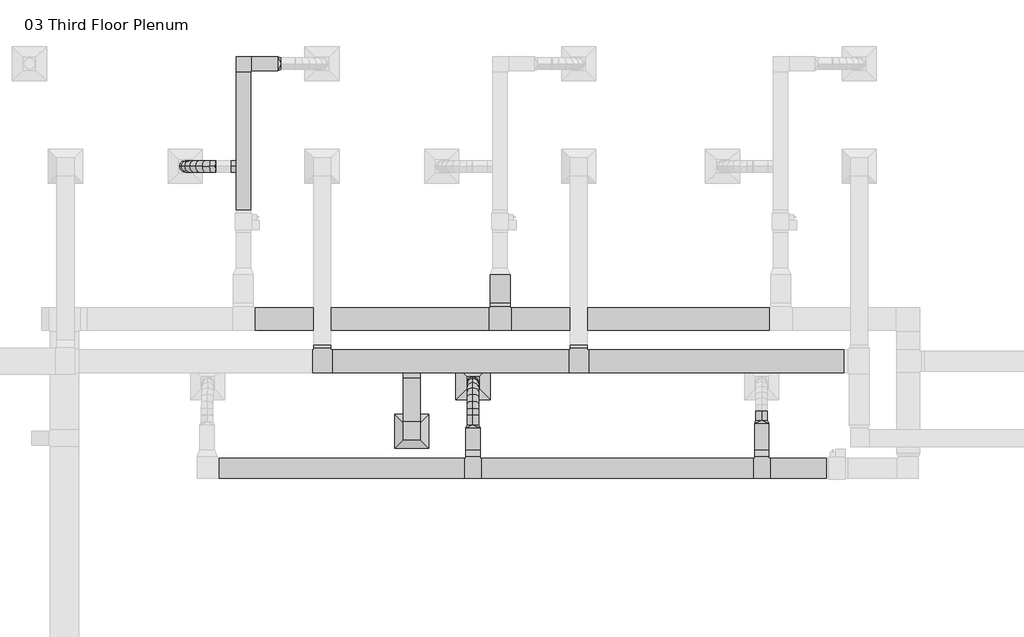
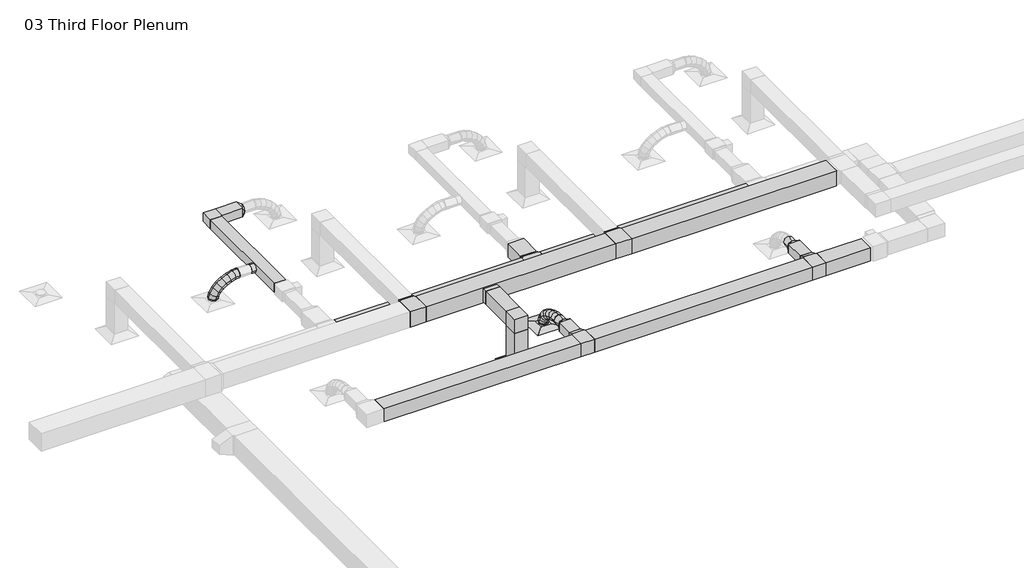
# One storey, part 6 of 9: 18 duct segments, 17 duct fittings, 2 air terminals.
"""IFC4 building model written with IfcOpenShell, lengths in millimetres."""

from ifc_helpers import new_model, si_unit, point, frame, frame_2d, origin, place, context, project, spatial, polyline, circle_curve, ellipse_curve, trimmed, segment, composite_curve, outline, extrude, transform, mapped, element, save
from ifc_brep_helpers import plane_surface, cylinder_surface, advanced_brep
from components import return_diffuser_d30_returndiffuser_24x24_12x12_connection_ff543d60, supply_diffuser_rectangular_face_round_neck_d30_6390248a, rectangular_elbow_mitered_standard_f09b78ec, rectangular_elbow_mitered_standard_4ff1c4e8, rectangular_takeoff_standard_e60ef6aa, rectangular_tee_standard_6c605370, rectangular_tee_standard_0ce2a782, rectangular_tee_standard_b910b0bc, rectangular_transition_angle_45_degree_68762448, rectangular_transition_angle_45_degree_97535d2c, rectangular_transition_angle_45_degree_0def93a9, rectangular_transition_angle_45_degree_622b8b9e, rectangular_to_round_transition_angle_45_degree_e9430680, round_takeoff_standard_1127d77f

model = new_model("IFC4")

# Units and contexts
model_context = context("Model", 3, world=origin())
ifc_project = project(units=[si_unit("LENGTHUNIT", "METRE", prefix="MILLI")], contexts=[model_context])

# Site, building, storey
site = spatial("IfcSite", under=ifc_project)
building = spatial("IfcBuilding", under=site)
storey = spatial("IfcBuildingStorey", under=building, Name="03 Third Floor Plenum", Elevation=7620.0)

# Air terminals
placement = place(None, origin())
return_diffuser_d30_returndiffuser_24x24_12x12_connection_shape = return_diffuser_d30_returndiffuser_24x24_12x12_connection_ff543d60(model_context)
element("IfcAirTerminal", 1, ObjectType="Return Diffuser : D30_ReturnDiffuser_24x24 12x12 Connection", at=placement, inside=storey, context=model_context, shape_type="MappedRepresentation", body=[
    mapped(return_diffuser_d30_returndiffuser_24x24_12x12_connection_shape, transform((2278.8423666, 5317.9101985, 7620.0), x_axis=(1.0, 0.0, 0.0), y_axis=(0.0, 1.0, 0.0), z_axis=(0.0, 0.0, 1.0))),
])
supply_diffuser_rectangular_face_round_neck_d30_shape = supply_diffuser_rectangular_face_round_neck_d30_6390248a(model_context)
element("IfcAirTerminal", 2, ObjectType="Supply Diffuser - Rectangular Face Round Neck : D30_SupplyDiffuser_24x24 8 Neck", at=placement, inside=storey, context=model_context, shape_type="MappedRepresentation", body=[
    mapped(supply_diffuser_rectangular_face_round_neck_d30_shape, transform((3368.651634, 6185.4921675, 7620.0), x_axis=(1.0, 0.0, 0.0), y_axis=(0.0, 1.0, 0.0), z_axis=(0.0, 0.0, 1.0))),
])

# Duct fittings
rectangular_elbow_mitered_standard_shape = rectangular_elbow_mitered_standard_f09b78ec(model_context)
element("IfcDuctFitting", 3, ObjectType="Rectangular Elbow - Mitered : Standard", at=placement, inside=storey, context=model_context, shape_type="MappedRepresentation", body=[
    mapped(rectangular_elbow_mitered_standard_shape, transform((-720.748366, 11865.5671675, 8077.2), x_axis=(-1.0, 0.0, 0.0), y_axis=(0.0, -1.0, 0.0), z_axis=(0.0, 0.0, 1.0))),
])
rectangular_elbow_mitered_standard_2_shape = rectangular_elbow_mitered_standard_4ff1c4e8(model_context)
element("IfcDuctFitting", 4, ObjectType="Rectangular Elbow - Mitered : Standard", at=placement, inside=storey, context=model_context, shape_type="MappedRepresentation", body=[
    mapped(rectangular_elbow_mitered_standard_2_shape, transform((2278.8423666, 5317.9101985, 8610.6), x_axis=(0.0, 0.0, 1.0), y_axis=(0.0, 1.0, 0.0), z_axis=(-1.0, 0.0, 0.0))),
])
rectangular_takeoff_standard_shape = rectangular_takeoff_standard_e60ef6aa(model_context)
element("IfcDuctFitting", 5, ObjectType="Rectangular Takeoff : Standard", at=placement, inside=storey, context=model_context, shape_type="MappedRepresentation", body=[
    mapped(rectangular_takeoff_standard_shape, transform((2278.8423666, 6359.3101985, 8610.6), x_axis=(0.0, -1.0, 0.0), y_axis=(-1.0, 0.0, 0.0), z_axis=(0.0, 0.0, -1.0))),
])
rectangular_tee_standard_shape = rectangular_tee_standard_6c605370(model_context)
element("IfcDuctFitting", 6, ObjectType="Rectangular Tee : Standard", at=placement, inside=storey, context=model_context, shape_type="MappedRepresentation", body=[
    mapped(rectangular_tee_standard_shape, transform((3851.251634, 7316.8809317, 8077.2), x_axis=(-1.0, 0.0, 0.0), y_axis=(0.0, -1.0, 0.0), z_axis=(0.0, 0.0, 1.0))),
])
rectangular_tee_standard_2_shape = rectangular_tee_standard_0ce2a782(model_context)
element("IfcDuctFitting", 7, ObjectType="Rectangular Tee : Standard", at=placement, inside=storey, context=model_context, shape_type="MappedRepresentation", body=[
    mapped(rectangular_tee_standard_2_shape, transform((8513.07093, 4659.6636656, 8077.2), x_axis=(-1.0, 0.0, 0.0), y_axis=(0.0, -1.0, 0.0), z_axis=(0.0, 0.0, 1.0))),
])
element("IfcDuctFitting", 8, ObjectType="Rectangular Tee : Standard", at=placement, inside=storey, context=model_context, shape_type="MappedRepresentation", body=[
    mapped(rectangular_tee_standard_2_shape, transform((3368.651634, 4659.6636656, 8077.2), x_axis=(-1.0, 0.0, 0.0), y_axis=(0.0, -1.0, 0.0), z_axis=(0.0, 0.0, 1.0))),
])
rectangular_tee_standard_3_shape = rectangular_tee_standard_b910b0bc(model_context)
element("IfcDuctFitting", 9, ObjectType="Rectangular Tee : Standard", at=placement, inside=storey, context=model_context, shape_type="MappedRepresentation", body=[
    mapped(rectangular_tee_standard_3_shape, transform((5253.2457383, 6562.5101985, 8610.6), x_axis=(-1.0, 0.0, 0.0), y_axis=(0.0, -1.0, 0.0), z_axis=(0.0, 0.0, 1.0))),
])
element("IfcDuctFitting", 10, ObjectType="Rectangular Tee : Standard", at=placement, inside=storey, context=model_context, shape_type="MappedRepresentation", body=[
    mapped(rectangular_tee_standard_3_shape, transform((681.292805, 6562.5101985, 8610.6), x_axis=(-1.0, 0.0, 0.0), y_axis=(0.0, -1.0, 0.0), z_axis=(0.0, 0.0, 1.0))),
])
rectangular_transition_angle_45_degree_shape = rectangular_transition_angle_45_degree_68762448(model_context)
element("IfcDuctFitting", 11, ObjectType="Rectangular Transition - Angle : 45 Degree", at=placement, inside=storey, context=model_context, shape_type="MappedRepresentation", body=[
    mapped(rectangular_transition_angle_45_degree_shape, transform((681.2918451, 6852.431223, 8610.6), x_axis=(1.5654790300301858e-05, -0.9999999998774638, 0.0), y_axis=(0.9999999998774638, 1.5654790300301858e-05, 0.0), z_axis=(0.0, 0.0, 1.0))),
])
rectangular_transition_angle_45_degree_2_shape = rectangular_transition_angle_45_degree_97535d2c(model_context)
element("IfcDuctFitting", 12, ObjectType="Rectangular Transition - Angle : 45 Degree", at=placement, inside=storey, context=model_context, shape_type="MappedRepresentation", body=[
    mapped(rectangular_transition_angle_45_degree_2_shape, transform((3851.251634, 7606.8019562, 8077.2), x_axis=(0.0, -1.0, 0.0), y_axis=(1.0, 0.0, 0.0), z_axis=(0.0, 0.0, 1.0))),
])
rectangular_transition_angle_45_degree_3_shape = rectangular_transition_angle_45_degree_0def93a9(model_context)
element("IfcDuctFitting", 13, ObjectType="Rectangular Transition - Angle : 45 Degree", at=placement, inside=storey, context=model_context, shape_type="MappedRepresentation", body=[
    mapped(rectangular_transition_angle_45_degree_3_shape, transform((8513.07093, 4862.8636656, 8077.2), x_axis=(0.0, 1.0, 0.0), y_axis=(-1.0, 0.0, 0.0), z_axis=(0.0, 0.0, 1.0))),
])
element("IfcDuctFitting", 14, ObjectType="Rectangular Transition - Angle : 45 Degree", at=placement, inside=storey, context=model_context, shape_type="MappedRepresentation", body=[
    mapped(rectangular_transition_angle_45_degree_3_shape, transform((3368.651634, 4862.8636656, 8077.2), x_axis=(0.0, 1.0, 0.0), y_axis=(-1.0, 0.0, 0.0), z_axis=(0.0, 0.0, 1.0))),
])
rectangular_transition_angle_45_degree_4_shape = rectangular_transition_angle_45_degree_622b8b9e(model_context)
element("IfcDuctFitting", 15, ObjectType="Rectangular Transition - Angle : 45 Degree", at=placement, inside=storey, context=model_context, shape_type="MappedRepresentation", body=[
    mapped(rectangular_transition_angle_45_degree_4_shape, transform((5253.2457383, 6791.1101985, 8610.6), x_axis=(0.0, 1.0, 0.0), y_axis=(-1.0, 0.0, 0.0), z_axis=(0.0, 0.0, 1.0))),
])
rectangular_to_round_transition_angle_45_degree_shape = rectangular_to_round_transition_angle_45_degree_e9430680(model_context)
element("IfcDuctFitting", 16, ObjectType="Rectangular to Round Transition - Angle : 45 Degree", at=placement, inside=storey, context=model_context, shape_type="MappedRepresentation", body=[
    mapped(rectangular_to_round_transition_angle_45_degree_shape, transform((-111.148366, 11865.5671675, 8077.2), x_axis=(1.0, 0.0, 0.0), y_axis=(0.0, 1.0, 0.0), z_axis=(0.0, 0.0, 1.0))),
])
element("IfcDuctFitting", 17, ObjectType="Rectangular to Round Transition - Angle : 45 Degree", at=placement, inside=storey, context=model_context, shape_type="MappedRepresentation", body=[
    mapped(rectangular_to_round_transition_angle_45_degree_shape, transform((8513.07093, 5447.0636656, 8077.2), x_axis=(0.0, 1.0, 0.0), y_axis=(-1.0, 0.0, 0.0), z_axis=(0.0, 0.0, 1.0))),
])
element("IfcDuctFitting", 18, ObjectType="Rectangular to Round Transition - Angle : 45 Degree", at=placement, inside=storey, context=model_context, shape_type="MappedRepresentation", body=[
    mapped(rectangular_to_round_transition_angle_45_degree_shape, transform((3368.651634, 5370.8636656, 8077.2), x_axis=(0.0, 1.0, 0.0), y_axis=(-1.0, 0.0, 0.0), z_axis=(0.0, 0.0, 1.0))),
])
round_takeoff_standard_shape = round_takeoff_standard_1127d77f(model_context)
element("IfcDuctFitting", 19, ObjectType="Round Takeoff : Standard", at=placement, inside=storey, context=model_context, shape_type="MappedRepresentation", body=[
    mapped(round_takeoff_standard_shape, transform((-847.748366, 10036.7671675, 8077.2), x_axis=(-1.0, 0.0, 0.0), y_axis=(0.0, 1.0, 0.0), z_axis=(0.0, 0.0, -1.0))),
])

# Duct segments
element("IfcDuctSegment", 20, ObjectType="Flex - Round", at=placement, inside=storey, context=model_context, shape_type="AdvancedBrep", body=[
    advanced_brep(
    [(-1203.348366, 9935.1671675, 8077.2), (-1203.348366, 10036.7671675, 7975.6), (-1203.348366, 10138.3671675, 8077.2), (-1203.348366, 10036.7671675, 8178.8), (-1213.550614, 9935.1671675, 8077.2), (-1207.8750929, 10036.7671675, 7975.6), (-1213.550614, 10138.3671675, 8077.2), (-1219.2261351, 10036.7671675, 8178.8), (-1757.1542617, 9935.1671675, 7673.975), (-1858.7542617, 10036.7671675, 7673.975), (-1757.1542617, 10138.3671675, 7673.975), (-1655.5542617, 10036.7671675, 7673.975), (-1305.9257887, 9935.1671675, 8066.847276), (-1286.593384, 10036.7671675, 7966.7778382), (-1305.9257887, 10138.3671675, 8066.847276), (-1325.2581935, 10036.7671675, 8166.9167138), (-1413.0020777, 9935.1671675, 8037.2048655), (-1378.4297131, 10036.7671675, 7941.3543743), (-1413.0020777, 10138.3671675, 8037.2048655), (-1447.5744422, 10036.7671675, 8133.0553568), (-1517.1854541, 9935.1671675, 7990.396411), (-1468.1078152, 10036.7671675, 7901.0629813), (-1517.1854541, 10138.3671675, 7990.396411), (-1566.263093, 10036.7671675, 8079.7298408), (-1611.0841394, 9935.1671675, 7928.5455549), (-1546.9689142, 10036.7671675, 7849.1173499), (-1611.0841394, 10138.3671675, 7928.5455549), (-1675.1993646, 10036.7671675, 8007.9737598), (-1687.3063549, 9935.1671675, 7853.7759394), (-1606.8169244, 10036.7671675, 7790.4098894), (-1687.3063549, 10138.3671675, 7853.7759394), (-1767.7957854, 10036.7671675, 7917.1419893), (-1738.4603219, 9935.1671675, 7768.211207), (-1643.5666037, 10036.7671675, 7728.9390659), (-1738.4603219, 10138.3671675, 7768.211207), (-1833.35404, 10036.7671675, 7807.483348), (-1757.1542617, 9935.1671675, 7693.7444887), (-1655.5542617, 10036.7671675, 7681.1866092), (-1757.1542617, 10138.3671675, 7693.7444887), (-1858.7542617, 10036.7671675, 7706.3023681)],
    [
        (0, 1, circle_curve(frame((-1203.348366, 10036.7671675, 8077.2), z_axis=(1.0, 0.0, 0.0), x_axis=(0.0, -1.0, 0.0)), 101.6)),
        (1, 2, circle_curve(frame((-1203.348366, 10036.7671675, 8077.2), z_axis=(1.0, 0.0, 0.0), x_axis=(0.0, -1.0, 0.0)), 101.6)),
        (2, 3, circle_curve(frame((-1203.348366, 10036.7671675, 8077.2), z_axis=(1.0, 0.0, 0.0), x_axis=(0.0, -1.0, 0.0)), 101.6)),
        (3, 0, circle_curve(frame((-1203.348366, 10036.7671675, 8077.2), z_axis=(1.0, 0.0, 0.0), x_axis=(0.0, -1.0, 0.0)), 101.6)),
        (0, 4),
        (4, 5, ellipse_curve(frame((-1213.550614, 10036.7671675, 8077.2), z_axis=(0.9984433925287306, 0.0, 0.05577447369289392), x_axis=(0.055774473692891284, 0.0, -0.9984433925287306)), 101.7583979, 101.6)),
        (5, 1),
        (5, 6, ellipse_curve(frame((-1213.550614, 10036.7671675, 8077.2), z_axis=(0.9984433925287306, 0.0, 0.05577447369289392), x_axis=(0.055774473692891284, 0.0, -0.9984433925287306)), 101.7583979, 101.6)),
        (6, 2),
        (6, 7, ellipse_curve(frame((-1213.550614, 10036.7671675, 8077.2), z_axis=(0.9984433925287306, 0.0, 0.05577447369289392), x_axis=(0.055774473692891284, 0.0, -0.9984433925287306)), 101.7583979, 101.6)),
        (7, 3),
        (7, 4, ellipse_curve(frame((-1213.550614, 10036.7671675, 8077.2), z_axis=(0.9984433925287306, 0.0, 0.05577447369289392), x_axis=(0.055774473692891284, 0.0, -0.9984433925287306)), 101.7583979, 101.6)),
        (8, 9, circle_curve(frame((-1757.1542617, 10036.7671675, 7673.975), z_axis=(0.0, 0.0, -1.0), x_axis=(0.0, -1.0, 0.0)), 101.6)),
        (9, 10, circle_curve(frame((-1757.1542617, 10036.7671675, 7673.975), z_axis=(0.0, 0.0, -1.0), x_axis=(0.0, -1.0, 0.0)), 101.6)),
        (10, 11, circle_curve(frame((-1757.1542617, 10036.7671675, 7673.975), z_axis=(0.0, 0.0, -1.0), x_axis=(0.0, -1.0, 0.0)), 101.6)),
        (11, 8, circle_curve(frame((-1757.1542617, 10036.7671675, 7673.975), z_axis=(0.0, 0.0, -1.0), x_axis=(0.0, -1.0, 0.0)), 101.6)),
        (4, 12),
        (12, 13, ellipse_curve(frame((-1305.9257887, 10036.7671675, 8066.847276), z_axis=(0.9818454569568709, 0.0, 0.1896826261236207), x_axis=(0.18968262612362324, 0.0, -0.9818454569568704)), 101.9197442, 101.6)),
        (13, 5),
        (13, 14, ellipse_curve(frame((-1305.9257887, 10036.7671675, 8066.847276), z_axis=(0.9818454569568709, 0.0, 0.1896826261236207), x_axis=(0.18968262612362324, 0.0, -0.9818454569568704)), 101.9197442, 101.6)),
        (14, 6),
        (14, 15, ellipse_curve(frame((-1305.9257887, 10036.7671675, 8066.847276), z_axis=(0.9818454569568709, 0.0, 0.1896826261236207), x_axis=(0.18968262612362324, 0.0, -0.9818454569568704)), 101.9197442, 101.6)),
        (15, 7),
        (15, 12, ellipse_curve(frame((-1305.9257887, 10036.7671675, 8066.847276), z_axis=(0.9818454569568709, 0.0, 0.1896826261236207), x_axis=(0.18968262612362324, 0.0, -0.9818454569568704)), 101.9197442, 101.6)),
        (12, 16),
        (16, 17, ellipse_curve(frame((-1413.0020777, 10036.7671675, 8037.2048655), z_axis=(0.94068022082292, 0.0, 0.33929444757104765), x_axis=(0.3392944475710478, 0.0, -0.9406802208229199)), 101.8948726, 101.6)),
        (17, 13),
        (17, 18, ellipse_curve(frame((-1413.0020777, 10036.7671675, 8037.2048655), z_axis=(0.94068022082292, 0.0, 0.33929444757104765), x_axis=(0.3392944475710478, 0.0, -0.9406802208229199)), 101.8948726, 101.6)),
        (18, 14),
        (18, 19, ellipse_curve(frame((-1413.0020777, 10036.7671675, 8037.2048655), z_axis=(0.94068022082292, 0.0, 0.33929444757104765), x_axis=(0.3392944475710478, 0.0, -0.9406802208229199)), 101.8948726, 101.6)),
        (19, 15),
        (19, 16, ellipse_curve(frame((-1413.0020777, 10036.7671675, 8037.2048655), z_axis=(0.94068022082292, 0.0, 0.33929444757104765), x_axis=(0.3392944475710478, 0.0, -0.9406802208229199)), 101.8948726, 101.6)),
        (16, 20),
        (20, 21, ellipse_curve(frame((-1517.1854541, 10036.7671675, 7990.396411), z_axis=(0.8764467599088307, 0.0, 0.4814987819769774), x_axis=(0.48149878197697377, 0.0, -0.8764467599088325)), 101.9268184, 101.6)),
        (21, 17),
        (21, 22, ellipse_curve(frame((-1517.1854541, 10036.7671675, 7990.396411), z_axis=(0.8764467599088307, 0.0, 0.4814987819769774), x_axis=(0.48149878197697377, 0.0, -0.8764467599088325)), 101.9268184, 101.6)),
        (22, 18),
        (22, 23, ellipse_curve(frame((-1517.1854541, 10036.7671675, 7990.396411), z_axis=(0.8764467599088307, 0.0, 0.4814987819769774), x_axis=(0.48149878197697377, 0.0, -0.8764467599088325)), 101.9268184, 101.6)),
        (23, 19),
        (23, 20, ellipse_curve(frame((-1517.1854541, 10036.7671675, 7990.396411), z_axis=(0.8764467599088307, 0.0, 0.4814987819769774), x_axis=(0.48149878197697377, 0.0, -0.8764467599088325)), 101.9268184, 101.6)),
        (20, 24),
        (24, 25, ellipse_curve(frame((-1611.0841394, 10036.7671675, 7928.5455549), z_axis=(0.7781246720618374, 0.0, 0.6281098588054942), x_axis=(0.6281098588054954, 0.0, -0.7781246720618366)), 102.0764509, 101.6)),
        (25, 21),
        (25, 26, ellipse_curve(frame((-1611.0841394, 10036.7671675, 7928.5455549), z_axis=(0.7781246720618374, 0.0, 0.6281098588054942), x_axis=(0.6281098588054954, 0.0, -0.7781246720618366)), 102.0764509, 101.6)),
        (26, 22),
        (26, 27, ellipse_curve(frame((-1611.0841394, 10036.7671675, 7928.5455549), z_axis=(0.7781246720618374, 0.0, 0.6281098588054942), x_axis=(0.6281098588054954, 0.0, -0.7781246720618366)), 102.0764509, 101.6)),
        (27, 23),
        (27, 24, ellipse_curve(frame((-1611.0841394, 10036.7671675, 7928.5455549), z_axis=(0.7781246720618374, 0.0, 0.6281098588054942), x_axis=(0.6281098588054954, 0.0, -0.7781246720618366)), 102.0764509, 101.6)),
        (24, 28),
        (28, 29, ellipse_curve(frame((-1687.3063549, 10036.7671675, 7853.7759394), z_axis=(0.6185718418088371, 0.0, 0.785728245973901), x_axis=(0.7857282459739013, 0.0, -0.6185718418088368)), 102.4392733, 101.6)),
        (29, 25),
        (29, 30, ellipse_curve(frame((-1687.3063549, 10036.7671675, 7853.7759394), z_axis=(0.6185718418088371, 0.0, 0.785728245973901), x_axis=(0.7857282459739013, 0.0, -0.6185718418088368)), 102.4392733, 101.6)),
        (30, 26),
        (30, 31, ellipse_curve(frame((-1687.3063549, 10036.7671675, 7853.7759394), z_axis=(0.6185718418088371, 0.0, 0.785728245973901), x_axis=(0.7857282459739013, 0.0, -0.6185718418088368)), 102.4392733, 101.6)),
        (31, 27),
        (31, 28, ellipse_curve(frame((-1687.3063549, 10036.7671675, 7853.7759394), z_axis=(0.6185718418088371, 0.0, 0.785728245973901), x_axis=(0.7857282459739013, 0.0, -0.6185718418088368)), 102.4392733, 101.6)),
        (28, 32),
        (32, 33, ellipse_curve(frame((-1738.4603219, 10036.7671675, 7768.211207), z_axis=(0.38239980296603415, 0.0, 0.9239969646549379), x_axis=(0.923996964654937, 0.0, -0.3823998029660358)), 102.6991666, 101.6)),
        (33, 29),
        (33, 34, ellipse_curve(frame((-1738.4603219, 10036.7671675, 7768.211207), z_axis=(0.38239980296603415, 0.0, 0.9239969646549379), x_axis=(0.923996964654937, 0.0, -0.3823998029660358)), 102.6991666, 101.6)),
        (34, 30),
        (34, 35, ellipse_curve(frame((-1738.4603219, 10036.7671675, 7768.211207), z_axis=(0.38239980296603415, 0.0, 0.9239969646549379), x_axis=(0.923996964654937, 0.0, -0.3823998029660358)), 102.6991666, 101.6)),
        (35, 31),
        (35, 32, ellipse_curve(frame((-1738.4603219, 10036.7671675, 7768.211207), z_axis=(0.38239980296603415, 0.0, 0.9239969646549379), x_axis=(0.923996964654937, 0.0, -0.3823998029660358)), 102.6991666, 101.6)),
        (32, 36),
        (36, 37, ellipse_curve(frame((-1757.1542617, 10036.7671675, 7693.7444887), z_axis=(0.12266771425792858, 0.0, 0.9924477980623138), x_axis=(0.992447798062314, 0.0, -0.12266771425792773)), 102.3731426, 101.6)),
        (37, 33),
        (37, 38, ellipse_curve(frame((-1757.1542617, 10036.7671675, 7693.7444887), z_axis=(0.12266771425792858, 0.0, 0.9924477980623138), x_axis=(0.992447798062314, 0.0, -0.12266771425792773)), 102.3731426, 101.6)),
        (38, 34),
        (38, 39, ellipse_curve(frame((-1757.1542617, 10036.7671675, 7693.7444887), z_axis=(0.12266771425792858, 0.0, 0.9924477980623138), x_axis=(0.992447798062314, 0.0, -0.12266771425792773)), 102.3731426, 101.6)),
        (39, 35),
        (39, 36, ellipse_curve(frame((-1757.1542617, 10036.7671675, 7693.7444887), z_axis=(0.12266771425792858, 0.0, 0.9924477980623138), x_axis=(0.992447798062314, 0.0, -0.12266771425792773)), 102.3731426, 101.6)),
        (36, 8),
        (11, 37),
        (10, 38),
        (9, 39),
    ],
    [
        plane_surface(frame((-1203.348366, 10036.7671675, 7975.6), z_axis=(1.0, 0.0, 0.0), x_axis=(0.0, -1.0, 0.0))),
        cylinder_surface(frame((-1203.348366, 10036.7671675, 8077.2), z_axis=(1.0, 0.0, 0.0), x_axis=(0.0, -1.0, 0.0)), 101.6),
        plane_surface(frame((-1757.1542617, 9935.1671675, 7673.975), z_axis=(0.0, 0.0, -1.0), x_axis=(-1.0, 0.0, 0.0))),
        cylinder_surface(frame((-1213.550614, 10036.7671675, 8077.2), z_axis=(0.9937784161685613, 0.0, 0.11137530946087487), x_axis=(0.0, -1.0, 0.0)), 101.6),
        cylinder_surface(frame((-1305.9257887, 10036.7671675, 8066.847276), z_axis=(0.9637519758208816, 0.0, 0.26679979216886), x_axis=(0.0, -1.0, 0.0)), 101.6),
        cylinder_surface(frame((-1413.0020777, 10036.7671675, 8037.2048655), z_axis=(0.9121640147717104, 0.0, 0.4098253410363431), x_axis=(0.0, -1.0, 0.0)), 101.6),
        cylinder_surface(frame((-1517.1854541, 10036.7671675, 7990.396411), z_axis=(0.8351090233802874, 0.0, 0.5500844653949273), x_axis=(0.0, -1.0, 0.0)), 101.6),
        cylinder_surface(frame((-1611.0841394, 10036.7671675, 7928.5455549), z_axis=(0.7138763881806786, 0.0, 0.7002717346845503), x_axis=(0.0, -1.0, 0.0)), 101.6),
        cylinder_surface(frame((-1687.3063549, 10036.7671675, 7853.7759394), z_axis=(0.5131315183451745, 0.0, 0.858309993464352), x_axis=(0.0, -1.0, 0.0)), 101.6),
        cylinder_surface(frame((-1738.4603219, 10036.7671675, 7768.211207), z_axis=(0.24348260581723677, 0.0, 0.9699052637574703), x_axis=(0.0, -1.0, 0.0)), 101.6),
        cylinder_surface(frame((-1757.1542617, 10036.7671675, 7693.7444887), z_axis=(0.0, 0.0, 1.0), x_axis=(0.0, -1.0, 0.0)), 101.6),
    ],
    [
        (0, [[1, 2, 3, 4]]),
        (1, [[-1, 5, 6, 7]]),
        (1, [[-2, -7, 8, 9]]),
        (1, [[-3, -9, 10, 11]]),
        (1, [[-4, -11, 12, -5]]),
        (2, [[13, 14, 15, 16]]),
        (3, [[-6, 17, 18, 19]]),
        (3, [[-8, -19, 20, 21]]),
        (3, [[-10, -21, 22, 23]]),
        (3, [[-12, -23, 24, -17]]),
        (4, [[-18, 25, 26, 27]]),
        (4, [[-20, -27, 28, 29]]),
        (4, [[-22, -29, 30, 31]]),
        (4, [[-24, -31, 32, -25]]),
        (5, [[-26, 33, 34, 35]]),
        (5, [[-28, -35, 36, 37]]),
        (5, [[-30, -37, 38, 39]]),
        (5, [[-32, -39, 40, -33]]),
        (6, [[-34, 41, 42, 43]]),
        (6, [[-36, -43, 44, 45]]),
        (6, [[-38, -45, 46, 47]]),
        (6, [[-40, -47, 48, -41]]),
        (7, [[-42, 49, 50, 51]]),
        (7, [[-44, -51, 52, 53]]),
        (7, [[-46, -53, 54, 55]]),
        (7, [[-48, -55, 56, -49]]),
        (8, [[-50, 57, 58, 59]]),
        (8, [[-52, -59, 60, 61]]),
        (8, [[-54, -61, 62, 63]]),
        (8, [[-56, -63, 64, -57]]),
        (9, [[-58, 65, 66, 67]]),
        (9, [[-60, -67, 68, 69]]),
        (9, [[-62, -69, 70, 71]]),
        (9, [[-64, -71, 72, -65]]),
        (10, [[-66, 73, -16, 74]]),
        (10, [[-68, -74, -15, 75]]),
        (10, [[-70, -75, -14, 76]]),
        (10, [[-72, -76, -13, -73]]),
    ],
),
])
element("IfcDuctSegment", 21, ObjectType="Flex - Round", at=placement, inside=storey, context=model_context, shape_type="AdvancedBrep", body=[
    advanced_brep(
    [(3267.051634, 5599.4636656, 8077.2), (3368.651634, 5599.4636656, 7975.6), (3470.251634, 5599.4636656, 8077.2), (3368.651634, 5599.4636656, 8178.8), (3267.051634, 5608.8065038, 8077.2), (3368.651634, 5603.6800416, 7975.6), (3470.251634, 5608.8065038, 8077.2), (3368.651634, 5613.9329661, 8178.8), (3267.051634, 6185.4921675, 7673.975), (3368.651634, 6287.0921675, 7673.975), (3470.251634, 6185.4921675, 7673.975), (3368.651634, 6083.8921675, 7673.975), (3267.051634, 5706.5865997, 8067.3073736), (3368.651634, 5688.9001766, 7966.9780923), (3470.251634, 5706.5865997, 8067.3073736), (3368.651634, 5724.2730229, 8167.6366549), (3267.051634, 5819.3396792, 8038.7385243), (3368.651634, 5787.2994174, 7942.0461517), (3470.251634, 5819.3396792, 8038.7385243), (3368.651634, 5851.379941, 8135.4308968), (3267.051634, 5929.6639015, 7993.1569967), (3368.651634, 5883.5208566, 7902.2913264), (3470.251634, 5929.6639015, 7993.1569967), (3368.651634, 5975.8069464, 8084.022667), (3267.051634, 6029.500264, 7932.2263358), (3368.651634, 5968.1042395, 7850.6696398), (3470.251634, 6029.500264, 7932.2263358), (3368.651634, 6090.8962886, 8013.7830318), (3267.051634, 6110.7897642, 7857.6100862), (3368.651634, 6032.1040839, 7791.9236965), (3470.251634, 6110.7897642, 7857.6100862), (3368.651634, 6189.4754446, 7923.2964758), (3267.051634, 6165.4733996, 7770.9717926), (3368.651634, 6071.1670685, 7730.0340598), (3470.251634, 6165.4733996, 7770.9717926), (3368.651634, 6259.7797307, 7811.9095255), (3267.051634, 6185.4921675, 7694.5109989), (3368.651634, 6083.8921675, 7681.4311101), (3470.251634, 6185.4921675, 7694.5109989), (3368.651634, 6287.0921675, 7707.5908877)],
    [
        (0, 1, circle_curve(frame((3368.651634, 5599.4636656, 8077.2), z_axis=(0.0, -1.0, 0.0), x_axis=(-1.0, 0.0, 0.0)), 101.6)),
        (1, 2, circle_curve(frame((3368.651634, 5599.4636656, 8077.2), z_axis=(0.0, -1.0, 0.0), x_axis=(-1.0, 0.0, 0.0)), 101.6)),
        (2, 3, circle_curve(frame((3368.651634, 5599.4636656, 8077.2), z_axis=(0.0, -1.0, 0.0), x_axis=(-1.0, 0.0, 0.0)), 101.6)),
        (3, 0, circle_curve(frame((3368.651634, 5599.4636656, 8077.2), z_axis=(0.0, -1.0, 0.0), x_axis=(-1.0, 0.0, 0.0)), 101.6)),
        (0, 4),
        (4, 5, ellipse_curve(frame((3368.651634, 5608.8065038, 8077.2), z_axis=(0.0, -0.9987294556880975, 0.05039319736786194), x_axis=(0.0, -0.05039319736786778, -0.9987294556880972)), 101.7292515, 101.6)),
        (5, 1),
        (5, 6, ellipse_curve(frame((3368.651634, 5608.8065038, 8077.2), z_axis=(0.0, -0.9987294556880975, 0.05039319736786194), x_axis=(0.0, -0.05039319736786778, -0.9987294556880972)), 101.7292515, 101.6)),
        (6, 2),
        (6, 7, ellipse_curve(frame((3368.651634, 5608.8065038, 8077.2), z_axis=(0.0, -0.9987294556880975, 0.05039319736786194), x_axis=(0.0, -0.05039319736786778, -0.9987294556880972)), 101.7292515, 101.6)),
        (7, 3),
        (7, 4, ellipse_curve(frame((3368.651634, 5608.8065038, 8077.2), z_axis=(0.0, -0.9987294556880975, 0.05039319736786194), x_axis=(0.0, -0.05039319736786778, -0.9987294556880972)), 101.7292515, 101.6)),
        (8, 9, circle_curve(frame((3368.651634, 6185.4921675, 7673.975), z_axis=(0.0, 0.0, -1.0), x_axis=(-1.0, 0.0, 0.0)), 101.6)),
        (9, 10, circle_curve(frame((3368.651634, 6185.4921675, 7673.975), z_axis=(0.0, 0.0, -1.0), x_axis=(-1.0, 0.0, 0.0)), 101.6)),
        (10, 11, circle_curve(frame((3368.651634, 6185.4921675, 7673.975), z_axis=(0.0, 0.0, -1.0), x_axis=(-1.0, 0.0, 0.0)), 101.6)),
        (11, 8, circle_curve(frame((3368.651634, 6185.4921675, 7673.975), z_axis=(0.0, 0.0, -1.0), x_axis=(-1.0, 0.0, 0.0)), 101.6)),
        (4, 12),
        (12, 13, ellipse_curve(frame((3368.651634, 5706.5865997, 8067.3073736), z_axis=(0.0, -0.9848150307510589, 0.17360689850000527), x_axis=(0.0, -0.17360689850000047, -0.9848150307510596)), 101.8762693, 101.6)),
        (13, 5),
        (13, 14, ellipse_curve(frame((3368.651634, 5706.5865997, 8067.3073736), z_axis=(0.0, -0.9848150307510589, 0.17360689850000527), x_axis=(0.0, -0.17360689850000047, -0.9848150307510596)), 101.8762693, 101.6)),
        (14, 6),
        (14, 15, ellipse_curve(frame((3368.651634, 5706.5865997, 8067.3073736), z_axis=(0.0, -0.9848150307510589, 0.17360689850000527), x_axis=(0.0, -0.17360689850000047, -0.9848150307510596)), 101.8762693, 101.6)),
        (15, 7),
        (15, 12, ellipse_curve(frame((3368.651634, 5706.5865997, 8067.3073736), z_axis=(0.0, -0.9848150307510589, 0.17360689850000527), x_axis=(0.0, -0.17360689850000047, -0.9848150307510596)), 101.8762693, 101.6)),
        (12, 16),
        (16, 17, ellipse_curve(frame((3368.651634, 5819.3396792, 8038.7385243), z_axis=(0.0, -0.9492429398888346, 0.3145438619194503), x_axis=(0.0, -0.3145438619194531, -0.9492429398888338)), 101.8626197, 101.6)),
        (17, 13),
        (17, 18, ellipse_curve(frame((3368.651634, 5819.3396792, 8038.7385243), z_axis=(0.0, -0.9492429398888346, 0.3145438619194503), x_axis=(0.0, -0.3145438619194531, -0.9492429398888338)), 101.8626197, 101.6)),
        (18, 14),
        (18, 19, ellipse_curve(frame((3368.651634, 5819.3396792, 8038.7385243), z_axis=(0.0, -0.9492429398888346, 0.3145438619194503), x_axis=(0.0, -0.3145438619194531, -0.9492429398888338)), 101.8626197, 101.6)),
        (19, 15),
        (19, 16, ellipse_curve(frame((3368.651634, 5819.3396792, 8038.7385243), z_axis=(0.0, -0.9492429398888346, 0.3145438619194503), x_axis=(0.0, -0.3145438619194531, -0.9492429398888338)), 101.8626197, 101.6)),
        (16, 20),
        (20, 21, ellipse_curve(frame((3368.651634, 5929.6639015, 7993.1569967), z_axis=(0.0, -0.8916222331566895, 0.4527800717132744), x_axis=(0.0, -0.4527800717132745, -0.8916222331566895)), 101.910503, 101.6)),
        (21, 17),
        (21, 22, ellipse_curve(frame((3368.651634, 5929.6639015, 7993.1569967), z_axis=(0.0, -0.8916222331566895, 0.4527800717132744), x_axis=(0.0, -0.4527800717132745, -0.8916222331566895)), 101.910503, 101.6)),
        (22, 18),
        (22, 23, ellipse_curve(frame((3368.651634, 5929.6639015, 7993.1569967), z_axis=(0.0, -0.8916222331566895, 0.4527800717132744), x_axis=(0.0, -0.4527800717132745, -0.8916222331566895)), 101.910503, 101.6)),
        (23, 19),
        (23, 20, ellipse_curve(frame((3368.651634, 5929.6639015, 7993.1569967), z_axis=(0.0, -0.8916222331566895, 0.4527800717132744), x_axis=(0.0, -0.4527800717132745, -0.8916222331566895)), 101.910503, 101.6)),
        (20, 24),
        (24, 25, ellipse_curve(frame((3368.651634, 6029.500264, 7932.2263358), z_axis=(0.0, -0.798924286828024, 0.6014316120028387), x_axis=(0.0, -0.6014316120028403, -0.798924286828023)), 102.0831352, 101.6)),
        (25, 21),
        (25, 26, ellipse_curve(frame((3368.651634, 6029.500264, 7932.2263358), z_axis=(0.0, -0.798924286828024, 0.6014316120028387), x_axis=(0.0, -0.6014316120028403, -0.798924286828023)), 102.0831352, 101.6)),
        (26, 22),
        (26, 27, ellipse_curve(frame((3368.651634, 6029.500264, 7932.2263358), z_axis=(0.0, -0.798924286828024, 0.6014316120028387), x_axis=(0.0, -0.6014316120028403, -0.798924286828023)), 102.0831352, 101.6)),
        (27, 23),
        (27, 24, ellipse_curve(frame((3368.651634, 6029.500264, 7932.2263358), z_axis=(0.0, -0.798924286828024, 0.6014316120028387), x_axis=(0.0, -0.6014316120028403, -0.798924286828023)), 102.0831352, 101.6)),
        (24, 28),
        (28, 29, ellipse_curve(frame((3368.651634, 6110.7897642, 7857.6100862), z_axis=(0.0, -0.6408462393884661, 0.7676692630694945), x_axis=(0.0, -0.7676692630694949, -0.6408462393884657)), 102.499454, 101.6)),
        (29, 25),
        (29, 30, ellipse_curve(frame((3368.651634, 6110.7897642, 7857.6100862), z_axis=(0.0, -0.6408462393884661, 0.7676692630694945), x_axis=(0.0, -0.7676692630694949, -0.6408462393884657)), 102.499454, 101.6)),
        (30, 26),
        (30, 31, ellipse_curve(frame((3368.651634, 6110.7897642, 7857.6100862), z_axis=(0.0, -0.6408462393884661, 0.7676692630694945), x_axis=(0.0, -0.7676692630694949, -0.6408462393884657)), 102.499454, 101.6)),
        (31, 27),
        (31, 28, ellipse_curve(frame((3368.651634, 6110.7897642, 7857.6100862), z_axis=(0.0, -0.6408462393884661, 0.7676692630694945), x_axis=(0.0, -0.7676692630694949, -0.6408462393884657)), 102.499454, 101.6)),
        (28, 32),
        (32, 33, ellipse_curve(frame((3368.651634, 6165.4733996, 7770.9717926), z_axis=(0.0, -0.3981941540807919, 0.9173011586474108), x_axis=(0.0, -0.9173011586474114, -0.3981941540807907)), 102.8084727, 101.6)),
        (33, 29),
        (33, 34, ellipse_curve(frame((3368.651634, 6165.4733996, 7770.9717926), z_axis=(0.0, -0.3981941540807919, 0.9173011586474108), x_axis=(0.0, -0.9173011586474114, -0.3981941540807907)), 102.8084727, 101.6)),
        (34, 30),
        (34, 35, ellipse_curve(frame((3368.651634, 6165.4733996, 7770.9717926), z_axis=(0.0, -0.3981941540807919, 0.9173011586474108), x_axis=(0.0, -0.9173011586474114, -0.3981941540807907)), 102.8084727, 101.6)),
        (35, 31),
        (35, 32, ellipse_curve(frame((3368.651634, 6165.4733996, 7770.9717926), z_axis=(0.0, -0.3981941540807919, 0.9173011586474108), x_axis=(0.0, -0.9173011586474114, -0.3981941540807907)), 102.8084727, 101.6)),
        (32, 36),
        (36, 37, ellipse_curve(frame((3368.651634, 6185.4921675, 7694.5109989), z_axis=(0.0, -0.12768529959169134, 0.9918147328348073), x_axis=(0.0, -0.9918147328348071, -0.12768529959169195)), 102.4384864, 101.6)),
        (37, 33),
        (37, 38, ellipse_curve(frame((3368.651634, 6185.4921675, 7694.5109989), z_axis=(0.0, -0.12768529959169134, 0.9918147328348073), x_axis=(0.0, -0.9918147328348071, -0.12768529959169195)), 102.4384864, 101.6)),
        (38, 34),
        (38, 39, ellipse_curve(frame((3368.651634, 6185.4921675, 7694.5109989), z_axis=(0.0, -0.12768529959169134, 0.9918147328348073), x_axis=(0.0, -0.9918147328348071, -0.12768529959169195)), 102.4384864, 101.6)),
        (39, 35),
        (39, 36, ellipse_curve(frame((3368.651634, 6185.4921675, 7694.5109989), z_axis=(0.0, -0.12768529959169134, 0.9918147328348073), x_axis=(0.0, -0.9918147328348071, -0.12768529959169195)), 102.4384864, 101.6)),
        (36, 8),
        (11, 37),
        (10, 38),
        (9, 39),
    ],
    [
        plane_surface(frame((3267.051634, 5599.4636656, 8077.2), z_axis=(0.0, -1.0, 0.0), x_axis=(0.0, 0.0, 1.0))),
        cylinder_surface(frame((3368.651634, 5599.4636656, 8077.2), z_axis=(0.0, -1.0, 0.0), x_axis=(-1.0, 0.0, 0.0)), 101.6),
        plane_surface(frame((3368.651634, 6083.8921675, 7673.975), z_axis=(0.0, 0.0, -1.0), x_axis=(-1.0, 0.0, 0.0))),
        cylinder_surface(frame((3368.651634, 5608.8065038, 8077.2), z_axis=(0.0, -0.9949210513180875, 0.10065834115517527), x_axis=(-1.0, 0.0, 0.0)), 101.6),
        cylinder_surface(frame((3368.651634, 5706.5865997, 8067.3073736), z_axis=(0.0, -0.9693677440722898, 0.2456138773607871), x_axis=(-1.0, 0.0, 0.0)), 101.6),
        cylinder_surface(frame((3368.651634, 5819.3396792, 8038.7385243), z_axis=(0.0, -0.9242235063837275, 0.38185194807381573), x_axis=(-1.0, 0.0, 0.0)), 101.6),
        cylinder_surface(frame((3368.651634, 5929.6639015, 7993.1569967), z_axis=(0.0, -0.8535877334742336, 0.5209491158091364), x_axis=(-1.0, 0.0, 0.0)), 101.6),
        cylinder_surface(frame((3368.651634, 6029.500264, 7932.2263358), z_axis=(0.0, -0.7366986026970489, 0.6762212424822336), x_axis=(-1.0, 0.0, 0.0)), 101.6),
        cylinder_surface(frame((3368.651634, 6110.7897642, 7857.6100862), z_axis=(0.0, -0.5337467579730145, 0.8456443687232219), x_axis=(-1.0, 0.0, 0.0)), 101.6),
        cylinder_surface(frame((3368.651634, 6165.4733996, 7770.9717926), z_axis=(0.0, -0.2532803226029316, 0.96739292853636), x_axis=(-1.0, 0.0, 0.0)), 101.6),
        cylinder_surface(frame((3368.651634, 6185.4921675, 7694.5109989), z_axis=(0.0, 0.0, 1.0), x_axis=(-1.0, 0.0, 0.0)), 101.6),
    ],
    [
        (0, [[1, 2, 3, 4]]),
        (1, [[-1, 5, 6, 7]]),
        (1, [[-2, -7, 8, 9]]),
        (1, [[-3, -9, 10, 11]]),
        (1, [[-4, -11, 12, -5]]),
        (2, [[13, 14, 15, 16]]),
        (3, [[-6, 17, 18, 19]]),
        (3, [[-8, -19, 20, 21]]),
        (3, [[-10, -21, 22, 23]]),
        (3, [[-12, -23, 24, -17]]),
        (4, [[-18, 25, 26, 27]]),
        (4, [[-20, -27, 28, 29]]),
        (4, [[-22, -29, 30, 31]]),
        (4, [[-24, -31, 32, -25]]),
        (5, [[-26, 33, 34, 35]]),
        (5, [[-28, -35, 36, 37]]),
        (5, [[-30, -37, 38, 39]]),
        (5, [[-32, -39, 40, -33]]),
        (6, [[-34, 41, 42, 43]]),
        (6, [[-36, -43, 44, 45]]),
        (6, [[-38, -45, 46, 47]]),
        (6, [[-40, -47, 48, -41]]),
        (7, [[-42, 49, 50, 51]]),
        (7, [[-44, -51, 52, 53]]),
        (7, [[-46, -53, 54, 55]]),
        (7, [[-48, -55, 56, -49]]),
        (8, [[-50, 57, 58, 59]]),
        (8, [[-52, -59, 60, 61]]),
        (8, [[-54, -61, 62, 63]]),
        (8, [[-56, -63, 64, -57]]),
        (9, [[-58, 65, 66, 67]]),
        (9, [[-60, -67, 68, 69]]),
        (9, [[-62, -69, 70, 71]]),
        (9, [[-64, -71, 72, -65]]),
        (10, [[-66, 73, -16, 74]]),
        (10, [[-68, -74, -15, 75]]),
        (10, [[-70, -75, -14, 76]]),
        (10, [[-72, -76, -13, -73]]),
    ],
),
])
element("IfcDuctSegment", 22, ObjectType="Mitered Elbows / Taps", at=placement, inside=storey, context=model_context, shape_type="SweptSolid", body=[
    extrude(outline(polyline([(2431.2423666, 5495.7101985), (2126.4423666, 5495.7101985), (2126.4423666, 6257.7101985), (2431.2423666, 6257.7101985), (2431.2423666, 5495.7101985)])), frame((0.0, 0.0, 8458.2), z_axis=(0.0, 0.0, 1.0), x_axis=(1.0, 0.0, 0.0)), (0.0, 0.0, 1.0), 304.8),
])
element("IfcDuctSegment", 23, ObjectType="Mitered Elbows / Taps", at=placement, inside=storey, context=model_context, shape_type="SweptSolid", body=[
    extrude(outline(polyline([(2126.4423666, 5470.3101985), (2431.2423666, 5470.3101985), (2431.2423666, 5165.5101985), (2126.4423666, 5165.5101985), (2126.4423666, 5470.3101985)])), frame((0.0, 0.0, 7721.6), z_axis=(0.0, 0.0, 1.0), x_axis=(1.0, 0.0, 0.0)), (0.0, 0.0, 1.0), 711.2),
])
element("IfcDuctSegment", 24, ObjectType="Mitered Elbows / Tees", at=placement, inside=storey, context=model_context, shape_type="SweptSolid", body=[
    extrude(outline(polyline([(-847.748366, 11713.1671675), (-593.748366, 11713.1671675), (-593.748366, 9252.5421675), (-847.748366, 9252.5421675), (-847.748366, 11713.1671675)])), frame((0.0, 0.0, 7975.6), z_axis=(0.0, 0.0, 1.0), x_axis=(1.0, 0.0, 0.0)), (0.0, 0.0, 1.0), 203.2),
])
element("IfcDuctSegment", 25, ObjectType="Mitered Elbows / Tees", at=placement, inside=storey, context=model_context, shape_type="SweptSolid", body=[
    extrude(outline(polyline([(-568.348366, 11738.5671675), (-568.348366, 11992.5671675), (-111.148366, 11992.5671675), (-111.148366, 11738.5671675), (-568.348366, 11738.5671675)])), frame((0.0, 0.0, 7975.6), z_axis=(0.0, 0.0, 1.0), x_axis=(1.0, 0.0, 0.0)), (0.0, 0.0, 1.0), 203.2),
])
element("IfcDuctSegment", 26, ObjectType="Mitered Elbows / Tees", at=placement, inside=storey, context=model_context, shape_type="SweptSolid", body=[
    extrude(outline(polyline([(3673.451634, 8101.2001185), (4029.051634, 8101.2001185), (4029.051634, 7606.8019562), (3673.451634, 7606.8019562), (3673.451634, 8101.2001185)])), frame((0.0, 0.0, 7924.8), z_axis=(0.0, 0.0, 1.0), x_axis=(1.0, 0.0, 0.0)), (0.0, 0.0, 1.0), 304.8),
])
element("IfcDuctSegment", 27, ObjectType="Mitered Elbows / Tees", at=placement, inside=storey, context=model_context, shape_type="SweptSolid", body=[
    extrude(outline(polyline([(-517.548366, 7113.6809317), (-517.548366, 7520.0809317), (3648.051634, 7520.0809317), (3648.051634, 7113.6809317), (-517.548366, 7113.6809317)])), frame((0.0, 0.0, 7899.4), z_axis=(0.0, 0.0, 1.0), x_axis=(1.0, 0.0, 0.0)), (0.0, 0.0, 1.0), 355.6),
])
element("IfcDuctSegment", 28, ObjectType="Mitered Elbows / Tees", at=placement, inside=storey, context=model_context, shape_type="SweptSolid", body=[
    extrude(outline(polyline([(4054.451634, 7113.6809317), (4054.451634, 7520.0809317), (8647.089134, 7520.0809317), (8647.089134, 7113.6809317), (4054.451634, 7113.6809317)])), frame((0.0, 0.0, 7899.4), z_axis=(0.0, 0.0, 1.0), x_axis=(1.0, 0.0, 0.0)), (0.0, 0.0, 1.0), 355.6),
])
element("IfcDuctSegment", 29, ObjectType="Mitered Elbows / Tees", at=placement, inside=storey, context=model_context, shape_type="SweptSolid", body=[
    extrude(outline(polyline([(3216.251634, 4837.4636656), (3216.251634, 4481.8636656), (-1164.32907, 4481.8636656), (-1164.32907, 4837.4636656), (3216.251634, 4837.4636656)])), frame((0.0, 0.0, 7924.8), z_axis=(0.0, 0.0, 1.0), x_axis=(1.0, 0.0, 0.0)), (0.0, 0.0, 1.0), 304.8),
])
element("IfcDuctSegment", 30, ObjectType="Mitered Elbows / Tees", at=placement, inside=storey, context=model_context, shape_type="SweptSolid", body=[
    extrude(outline(polyline([(8640.07093, 4985.5057145), (8386.07093, 4985.5057145), (8386.07093, 5447.0636656), (8640.07093, 5447.0636656), (8640.07093, 4985.5057145)])), frame((0.0, 0.0, 7975.6), z_axis=(0.0, 0.0, 1.0), x_axis=(1.0, 0.0, 0.0)), (0.0, 0.0, 1.0), 203.2),
])
element("IfcDuctSegment", 31, ObjectType="Mitered Elbows / Tees", at=placement, inside=storey, context=model_context, shape_type="SweptSolid", body=[
    extrude(outline(polyline([(8665.47093, 4481.8636656), (8665.47093, 4837.4636656), (9659.0699331, 4837.4636656), (9659.0699331, 4481.8636656), (8665.47093, 4481.8636656)])), frame((0.0, 0.0, 7924.8), z_axis=(0.0, 0.0, 1.0), x_axis=(1.0, 0.0, 0.0)), (0.0, 0.0, 1.0), 304.8),
])
element("IfcDuctSegment", 32, ObjectType="Mitered Elbows / Tees", at=placement, inside=storey, context=model_context, shape_type="SweptSolid", body=[
    extrude(outline(polyline([(3495.651634, 4985.5057145), (3241.651634, 4985.5057145), (3241.651634, 5370.8636656), (3495.651634, 5370.8636656), (3495.651634, 4985.5057145)])), frame((0.0, 0.0, 7975.6), z_axis=(0.0, 0.0, 1.0), x_axis=(1.0, 0.0, 0.0)), (0.0, 0.0, 1.0), 203.2),
])
element("IfcDuctSegment", 33, ObjectType="Mitered Elbows / Tees", at=placement, inside=storey, context=model_context, shape_type="SweptSolid", body=[
    extrude(outline(polyline([(8360.67093, 4837.4636656), (8360.67093, 4481.8636656), (3521.051634, 4481.8636656), (3521.051634, 4837.4636656), (8360.67093, 4837.4636656)])), frame((0.0, 0.0, 7924.8), z_axis=(0.0, 0.0, 1.0), x_axis=(1.0, 0.0, 0.0)), (0.0, 0.0, 1.0), 304.8),
])
element("IfcDuctSegment", 34, ObjectType="Mitered Elbows / Tees", at=placement, inside=storey, context=model_context, shape_type="SweptSolid", body=[
    extrude(outline(polyline([(5431.0457383, 6359.3101985), (5431.0457383, 6765.7101985), (9987.7622139, 6765.7101985), (9987.7622139, 6359.3101985), (5431.0457383, 6359.3101985)])), frame((0.0, 0.0, 8432.8), z_axis=(0.0, 0.0, 1.0), x_axis=(1.0, 0.0, 0.0)), (0.0, 0.0, 1.0), 355.6),
])
element("IfcDuctSegment", 35, ObjectType="Mitered Elbows / Tees", at=placement, inside=storey, context=model_context, shape_type="SweptSolid", body=[
    extrude(outline(polyline([(859.092805, 6359.3101985), (859.092805, 6765.7101985), (5075.4457383, 6765.7101985), (5075.4457383, 6359.3101985), (859.092805, 6359.3101985)])), frame((0.0, 0.0, 8432.8), z_axis=(0.0, 0.0, 1.0), x_axis=(1.0, 0.0, 0.0)), (0.0, 0.0, 1.0), 355.6),
])
element("IfcDuctSegment", 36, ObjectType="Taps", at=placement, inside=storey, context=model_context, shape_type="SweptSolid", body=[
    extrude(outline(composite_curve([segment(trimmed(circle_curve(frame_2d((8077.2, 8513.07093)), 101.6), [point((8077.2, 8614.67093))], [point((8178.8, 8513.07093))], False, "CARTESIAN"), True, "CONTINUOUS"), segment(trimmed(circle_curve(frame_2d((8077.2, 8513.07093)), 101.6), [point((8178.8, 8513.07093))], [point((8077.2, 8411.47093))], False, "CARTESIAN"), True, "CONTINUOUS"), segment(trimmed(circle_curve(frame_2d((8077.2, 8513.07093)), 101.6), [point((8077.2, 8411.47093))], [point((7975.6, 8513.07093))], False, "CARTESIAN"), True, "CONTINUOUS"), segment(trimmed(circle_curve(frame_2d((8077.2, 8513.07093)), 101.6), [point((7975.6, 8513.07093))], [point((8077.2, 8614.67093))], False, "CARTESIAN"), True, "CONTINUOUS")], self_intersect=False)), frame((0.0, 5508.3846901, 0.0), z_axis=(0.0, 1.0, 0.0), x_axis=(0.0, 0.0, 1.0)), (0.0, 0.0, 1.0), 167.2789755),
])
element("IfcDuctSegment", 37, ObjectType="Taps", at=placement, inside=storey, context=model_context, shape_type="SweptSolid", body=[
    extrude(outline(composite_curve([segment(trimmed(circle_curve(frame_2d((8077.2, 3368.651634)), 101.6), [point((8077.2, 3470.251634))], [point((8178.8, 3368.651634))], False, "CARTESIAN"), True, "CONTINUOUS"), segment(trimmed(circle_curve(frame_2d((8077.2, 3368.651634)), 101.6), [point((8178.8, 3368.651634))], [point((8077.2, 3267.051634))], False, "CARTESIAN"), True, "CONTINUOUS"), segment(trimmed(circle_curve(frame_2d((8077.2, 3368.651634)), 101.6), [point((8077.2, 3267.051634))], [point((7975.6, 3368.651634))], False, "CARTESIAN"), True, "CONTINUOUS"), segment(trimmed(circle_curve(frame_2d((8077.2, 3368.651634)), 101.6), [point((7975.6, 3368.651634))], [point((8077.2, 3470.251634))], False, "CARTESIAN"), True, "CONTINUOUS")], self_intersect=False)), frame((0.0, 5432.1846901, 0.0), z_axis=(0.0, 1.0, 0.0), x_axis=(0.0, 0.0, 1.0)), (0.0, 0.0, 1.0), 167.2789755),
])

save(model, "model.ifc")
